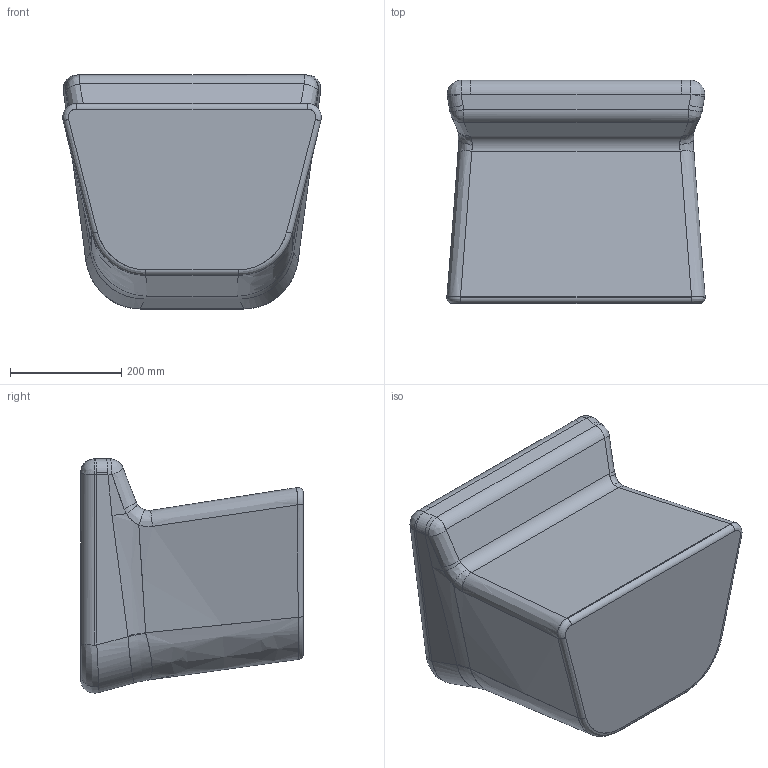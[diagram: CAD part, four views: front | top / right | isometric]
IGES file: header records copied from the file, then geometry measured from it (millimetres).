
Start section: SolidWorks IGES file using NURBS representation for surfaces
Global section: file name: G:\VICCARBE\PRODUCTOS\FAMILIAS 2D - 3D (PRODUCTOS VICCARBE)\3D (IGES + STL + DWG)\25-FEDELE\VICCARBE_Fedele_3D\01-IGES\VICCARBE_Fedele_pouf.IGS; native system: SolidWorks 2009; preprocessor: SolidWorks 2009; author: RUBEN; date: 110902.122736; units: millimetre
Bounding box: 463.75 x 400 x 420.05 mm (x, y, z)
Surface area: 844087.9 mm2 (no closed solid volume)
Topology: 0 solids, 0 shells, 72 faces, 599 edges, 597 vertices
Faces by surface type: bspline 72
